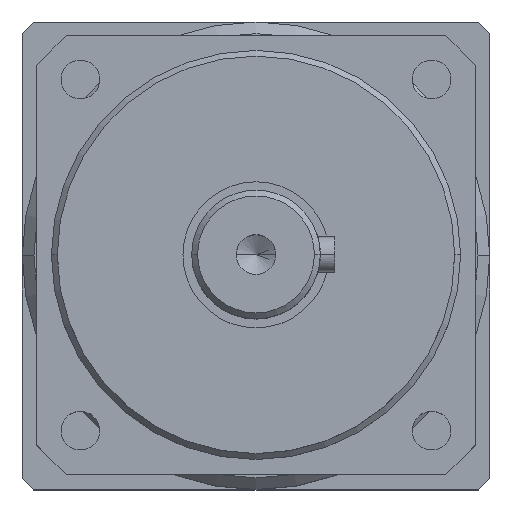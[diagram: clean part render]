
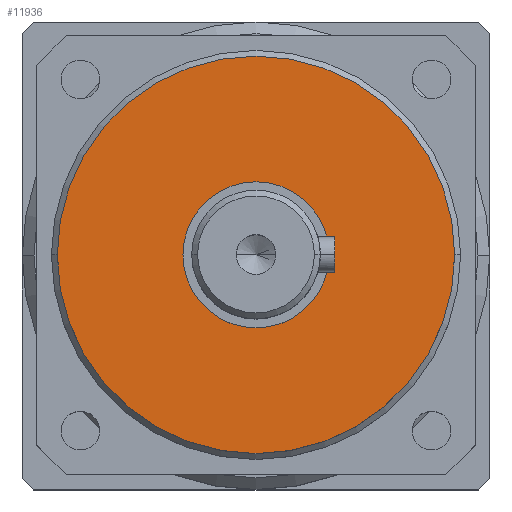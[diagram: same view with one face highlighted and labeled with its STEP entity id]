
A CAD part, top view. The second image highlights one B-rep face of the part: STEP entity #11936.
In plain terms, the highlighted planar face has unit normal (0, 0, 1).
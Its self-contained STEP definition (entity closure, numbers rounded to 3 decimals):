
#1075 = EDGE_LOOP ( 'NONE', ( #27492, #8155 ) ) ;
#1446 = EDGE_CURVE ( 'NONE', #8202, #29424, #13018, .T. ) ;
#2036 = DIRECTION ( 'NONE',  ( 0., 0., -1. ) ) ;
#2962 = FACE_OUTER_BOUND ( 'NONE', #8536, .T. ) ;
#3143 = EDGE_CURVE ( 'NONE', #29424, #8202, #14410, .T. ) ;
#5810 = PLANE ( 'NONE',  #15487 ) ;
#6615 = CARTESIAN_POINT ( 'NONE',  ( 0., 0., 5. ) ) ;
#6628 = CIRCLE ( 'NONE', #31464, 34. ) ;
#6703 = VERTEX_POINT ( 'NONE', #31233 ) ;
#8155 = ORIENTED_EDGE ( 'NONE', *, *, #3143, .T. ) ;
#8202 = VERTEX_POINT ( 'NONE', #9738 ) ;
#8536 = EDGE_LOOP ( 'NONE', ( #30236, #17047 ) ) ;
#8745 = DIRECTION ( 'NONE',  ( 0., 0., -1. ) ) ;
#9124 = DIRECTION ( 'NONE',  ( 1., 0., 0. ) ) ;
#9573 = VERTEX_POINT ( 'NONE', #30459 ) ;
#9738 = CARTESIAN_POINT ( 'NONE',  ( -12.5, 0., 5. ) ) ;
#10766 = AXIS2_PLACEMENT_3D ( 'NONE', #23794, #8745, #26269 ) ;
#10827 = CARTESIAN_POINT ( 'NONE',  ( 0., 0., 5. ) ) ;
#11936 = ADVANCED_FACE ( 'NONE', ( #18975, #2962 ), #5810, .T. ) ;
#12556 = AXIS2_PLACEMENT_3D ( 'NONE', #16951, #2036, #19497 ) ;
#13018 = CIRCLE ( 'NONE', #29546, 12.5 ) ;
#13354 = DIRECTION ( 'NONE',  ( 0., 0., 1. ) ) ;
#14410 = CIRCLE ( 'NONE', #12556, 12.5 ) ;
#15487 = AXIS2_PLACEMENT_3D ( 'NONE', #10827, #13354, #30976 ) ;
#16951 = CARTESIAN_POINT ( 'NONE',  ( 0., 0., 5. ) ) ;
#17047 = ORIENTED_EDGE ( 'NONE', *, *, #27230, .F. ) ;
#18975 = FACE_BOUND ( 'NONE', #1075, .T. ) ;
#19497 = DIRECTION ( 'NONE',  ( -1., 0., 0. ) ) ;
#21486 = DIRECTION ( 'NONE',  ( -1., 0., 0. ) ) ;
#23794 = CARTESIAN_POINT ( 'NONE',  ( 0., 0., 5. ) ) ;
#24204 = DIRECTION ( 'NONE',  ( 0., 0., -1. ) ) ;
#26269 = DIRECTION ( 'NONE',  ( 1., 0., 0. ) ) ;
#27230 = EDGE_CURVE ( 'NONE', #9573, #6703, #6628, .T. ) ;
#27492 = ORIENTED_EDGE ( 'NONE', *, *, #1446, .T. ) ;
#28791 = CIRCLE ( 'NONE', #10766, 34. ) ;
#29424 = VERTEX_POINT ( 'NONE', #32247 ) ;
#29546 = AXIS2_PLACEMENT_3D ( 'NONE', #31512, #29614, #21486 ) ;
#29614 = DIRECTION ( 'NONE',  ( 0., 0., -1. ) ) ;
#30236 = ORIENTED_EDGE ( 'NONE', *, *, #32455, .F. ) ;
#30459 = CARTESIAN_POINT ( 'NONE',  ( -34., 0., 5. ) ) ;
#30976 = DIRECTION ( 'NONE',  ( 1., 0., 0. ) ) ;
#31233 = CARTESIAN_POINT ( 'NONE',  ( 34., 0., 5. ) ) ;
#31464 = AXIS2_PLACEMENT_3D ( 'NONE', #6615, #24204, #9124 ) ;
#31512 = CARTESIAN_POINT ( 'NONE',  ( 0., 0., 5. ) ) ;
#32247 = CARTESIAN_POINT ( 'NONE',  ( 12.5, 0., 5. ) ) ;
#32455 = EDGE_CURVE ( 'NONE', #6703, #9573, #28791, .T. ) ;
